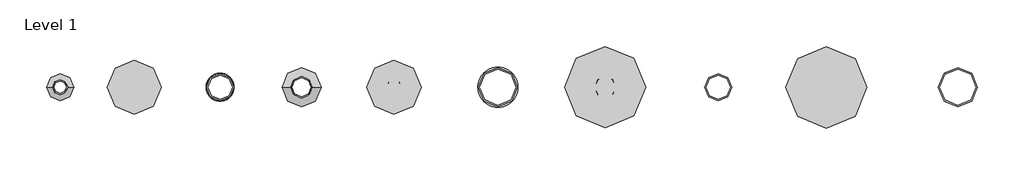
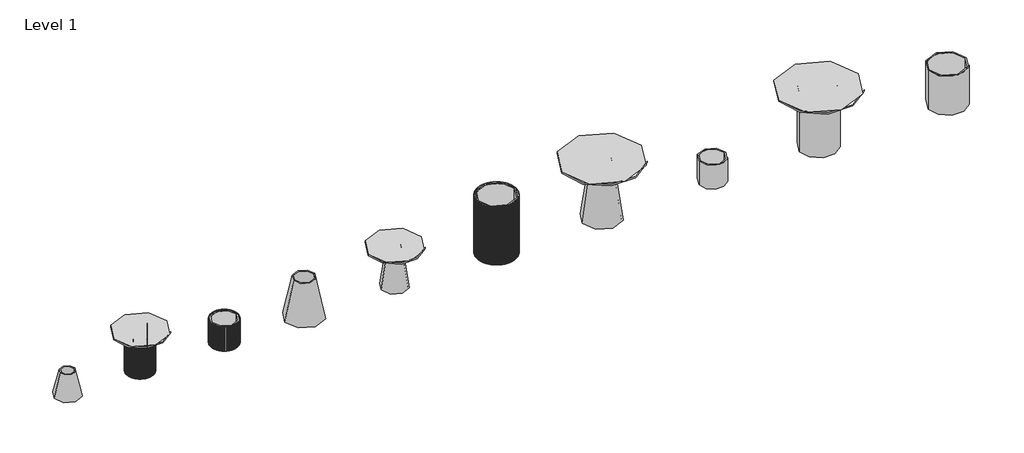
# One storey: 10 proxies.
"""IFC4 building model written with IfcOpenShell, lengths in millimetres."""

from ifc_helpers import new_model, si_unit, origin, place, context, project, spatial, transform, mapped, element, save
from components import pop_table_range_1_pop_table_range_1_06b6432b, pop_table_range_10_pop_table_range_10_a40c9d29, pop_table_range_2_pop_table_range_2_af476a1f, pop_table_range_3_pop_table_range_3_c5ca1f73, pop_table_range_4_pop_table_range_4_24706cb4, pop_table_range_5_pop_table_range_5_3fef4e76, pop_table_range_6_pop_table_range_6_9c32f7e2, pop_table_range_7_pop_table_range_7_13b0edd5, pop_table_range_8_pop_table_range_8_3dfe521d, pop_table_range_9_pop_table_range_9_ceaf5ab2

model = new_model("IFC4")

# Units and contexts
model_context = context("Model", 3, world=origin())
ifc_project = project(units=[si_unit("LENGTHUNIT", "METRE", prefix="MILLI")], contexts=[model_context])

# Site, building, storey
site = spatial("IfcSite", under=ifc_project)
building = spatial("IfcBuilding", under=site)
storey = spatial("IfcBuildingStorey", under=building, Name="Level 1", Elevation=0.0)

# Proxies
placement = place(None, origin())
pop_table_range_1_pop_table_range_1_shape = pop_table_range_1_pop_table_range_1_06b6432b(model_context)
element("IfcBuildingElementProxy", 1, Name="Pop Table Range_1 : Pop Table Range_1", ObjectType="Pop Table Range_1 : Pop Table Range_1", at=placement, inside=storey, context=model_context, shape_type="MappedRepresentation", body=[
    mapped(pop_table_range_1_pop_table_range_1_shape, transform((-1790.1998897, 1931.9045125, 0.0), x_axis=(1.0, 0.0, 0.0), y_axis=(0.0, 1.0, 0.0), z_axis=(0.0, 0.0, 1.0))),
])
pop_table_range_10_pop_table_range_10_shape = pop_table_range_10_pop_table_range_10_a40c9d29(model_context)
element("IfcBuildingElementProxy", 2, Name="Pop Table Range_10 : Pop Table Range_10", ObjectType="Pop Table Range_10 : Pop Table Range_10", at=placement, inside=storey, context=model_context, shape_type="MappedRepresentation", body=[
    mapped(pop_table_range_10_pop_table_range_10_shape, transform((-11152.4544161, 1931.9045125, 0.0), x_axis=(1.0, 0.0, 0.0), y_axis=(0.0, 1.0, 0.0), z_axis=(0.0, 0.0, 1.0))),
])
pop_table_range_2_pop_table_range_2_shape = pop_table_range_2_pop_table_range_2_af476a1f(model_context)
element("IfcBuildingElementProxy", 3, Name="Pop Table Range_2 : Pop Table Range_2", ObjectType="Pop Table Range_2 : Pop Table Range_2", at=placement, inside=storey, context=model_context, shape_type="MappedRepresentation", body=[
    mapped(pop_table_range_2_pop_table_range_2_shape, transform((-3972.6537586, 1931.9045125, 0.0), x_axis=(1.0, 0.0, 0.0), y_axis=(0.0, 1.0, 0.0), z_axis=(0.0, 0.0, 1.0))),
])
pop_table_range_3_pop_table_range_3_shape = pop_table_range_3_pop_table_range_3_c5ca1f73(model_context)
element("IfcBuildingElementProxy", 4, Name="Pop Table Range_3 : Pop Table Range_3", ObjectType="Pop Table Range_3 : Pop Table Range_3", at=placement, inside=storey, context=model_context, shape_type="MappedRepresentation", body=[
    mapped(pop_table_range_3_pop_table_range_3_shape, transform((-5770.3934058, 1931.9045125, 0.0), x_axis=(1.0, 0.0, 0.0), y_axis=(0.0, 1.0, 0.0), z_axis=(0.0, 0.0, 1.0))),
])
pop_table_range_4_pop_table_range_4_shape = pop_table_range_4_pop_table_range_4_24706cb4(model_context)
element("IfcBuildingElementProxy", 5, Name="Pop Table Range_4 : Pop Table Range_4", ObjectType="Pop Table Range_4 : Pop Table Range_4", at=placement, inside=storey, context=model_context, shape_type="MappedRepresentation", body=[
    mapped(pop_table_range_4_pop_table_range_4_shape, transform((-7645.6759878, 1931.9045125, 0.0), x_axis=(1.0, 0.0, 0.0), y_axis=(0.0, 1.0, 0.0), z_axis=(0.0, 0.0, 1.0))),
])
pop_table_range_5_pop_table_range_5_shape = pop_table_range_5_pop_table_range_5_3fef4e76(model_context)
element("IfcBuildingElementProxy", 6, Name="Pop Table Range_5 : Pop Table Range_5", ObjectType="Pop Table Range_5 : Pop Table Range_5", at=placement, inside=storey, context=model_context, shape_type="MappedRepresentation", body=[
    mapped(pop_table_range_5_pop_table_range_5_shape, transform((-9427.1944407, 1931.9045125, 0.0), x_axis=(1.0, 0.0, 0.0), y_axis=(0.0, 1.0, 0.0), z_axis=(0.0, 0.0, 1.0))),
])
pop_table_range_6_pop_table_range_6_shape = pop_table_range_6_pop_table_range_6_9c32f7e2(model_context)
element("IfcBuildingElementProxy", 7, Name="Pop Table Range_6 : Pop Table Range_6", ObjectType="Pop Table Range_6 : Pop Table Range_6", at=placement, inside=storey, context=model_context, shape_type="MappedRepresentation", body=[
    mapped(pop_table_range_6_pop_table_range_6_shape, transform((-15465.6043547, 1931.9045125, 0.0), x_axis=(1.0, 0.0, 0.0), y_axis=(0.0, 1.0, 0.0), z_axis=(0.0, 0.0, 1.0))),
])
pop_table_range_7_pop_table_range_7_shape = pop_table_range_7_pop_table_range_7_13b0edd5(model_context)
element("IfcBuildingElementProxy", 8, Name="Pop Table Range_7 : Pop Table Range_7", ObjectType="Pop Table Range_7 : Pop Table Range_7", at=placement, inside=storey, context=model_context, shape_type="MappedRepresentation", body=[
    mapped(pop_table_range_7_pop_table_range_7_shape, transform((-14040.3895924, 1931.9045125, 0.0), x_axis=(1.0, 0.0, 0.0), y_axis=(0.0, 1.0, 0.0), z_axis=(0.0, 0.0, 1.0))),
])
pop_table_range_8_pop_table_range_8_shape = pop_table_range_8_pop_table_range_8_3dfe521d(model_context)
element("IfcBuildingElementProxy", 9, Name="Pop Table Range_8 : Pop Table Range_8", ObjectType="Pop Table Range_8 : Pop Table Range_8", at=placement, inside=storey, context=model_context, shape_type="MappedRepresentation", body=[
    mapped(pop_table_range_8_pop_table_range_8_shape, transform((-16695.4755873, 1931.9045125, 0.0), x_axis=(1.0, 0.0, 0.0), y_axis=(0.0, 1.0, 0.0), z_axis=(0.0, 0.0, 1.0))),
])
pop_table_range_9_pop_table_range_9_shape = pop_table_range_9_pop_table_range_9_ceaf5ab2(model_context)
element("IfcBuildingElementProxy", 10, Name="Pop Table Range_9 : Pop Table Range_9", ObjectType="Pop Table Range_9 : Pop Table Range_9", at=placement, inside=storey, context=model_context, shape_type="MappedRepresentation", body=[
    mapped(pop_table_range_9_pop_table_range_9_shape, transform((-12690.1861334, 1931.9045125, 0.0), x_axis=(1.0, 0.0, 0.0), y_axis=(0.0, 1.0, 0.0), z_axis=(0.0, 0.0, 1.0))),
])

save(model, "model.ifc")
